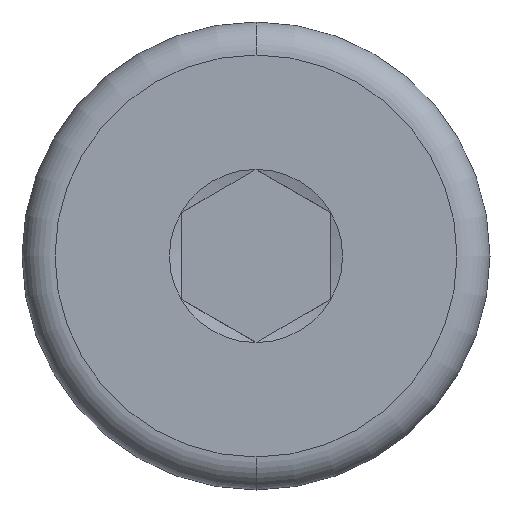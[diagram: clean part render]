
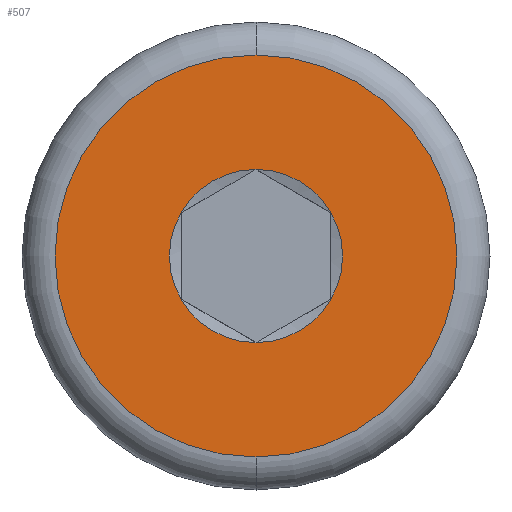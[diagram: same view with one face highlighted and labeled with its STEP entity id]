
A CAD part, left-side view. The second image highlights one B-rep face of the part: STEP entity #507.
In plain terms, the highlighted planar face has unit normal (-1, 0, 0).
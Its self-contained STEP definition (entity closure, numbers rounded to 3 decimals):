
#8 = ORIENTED_EDGE ( 'NONE', *, *, #416, .T. ) ;
#18 = CIRCLE ( 'NONE', #395, 2.887 ) ;
#26 = FACE_BOUND ( 'NONE', #629, .T. ) ;
#31 = FACE_OUTER_BOUND ( 'NONE', #222, .T. ) ;
#32 = CIRCLE ( 'NONE', #587, 2.887 ) ;
#51 = DIRECTION ( 'NONE',  ( 1., 0., 0. ) ) ;
#58 = CARTESIAN_POINT ( 'NONE',  ( 0., 0., -6.7 ) ) ;
#60 = DIRECTION ( 'NONE',  ( 0., 0., -1. ) ) ;
#67 = DIRECTION ( 'NONE',  ( 0., 0., -1. ) ) ;
#76 = ORIENTED_EDGE ( 'NONE', *, *, #161, .T. ) ;
#109 = CIRCLE ( 'NONE', #462, 2.887 ) ;
#119 = AXIS2_PLACEMENT_3D ( 'NONE', #339, #545, #167 ) ;
#132 = EDGE_CURVE ( 'NONE', #480, #158, #483, .T. ) ;
#154 = CARTESIAN_POINT ( 'NONE',  ( 0., 0., 0. ) ) ;
#158 = VERTEX_POINT ( 'NONE', #196 ) ;
#161 = EDGE_CURVE ( 'NONE', #170, #480, #18, .T. ) ;
#167 = DIRECTION ( 'NONE',  ( 0., 0., -1. ) ) ;
#170 = VERTEX_POINT ( 'NONE', #250 ) ;
#196 = CARTESIAN_POINT ( 'NONE',  ( 0., 0., -2.887 ) ) ;
#212 = DIRECTION ( 'NONE',  ( 0., 0., -1. ) ) ;
#216 = DIRECTION ( 'NONE',  ( 0., 0., -1. ) ) ;
#218 = AXIS2_PLACEMENT_3D ( 'NONE', #260, #588, #60 ) ;
#219 = VERTEX_POINT ( 'NONE', #523 ) ;
#221 = CARTESIAN_POINT ( 'NONE',  ( 0., 0., 0. ) ) ;
#222 = EDGE_LOOP ( 'NONE', ( #457, #477 ) ) ;
#234 = PLANE ( 'NONE',  #279 ) ;
#242 = CIRCLE ( 'NONE', #218, 2.887 ) ;
#250 = CARTESIAN_POINT ( 'NONE',  ( 0., -2.5, 1.443 ) ) ;
#260 = CARTESIAN_POINT ( 'NONE',  ( 0., 0., 0. ) ) ;
#262 = CARTESIAN_POINT ( 'NONE',  ( 0., 0., 0. ) ) ;
#263 = ORIENTED_EDGE ( 'NONE', *, *, #132, .T. ) ;
#273 = VERTEX_POINT ( 'NONE', #58 ) ;
#274 = EDGE_CURVE ( 'NONE', #321, #442, #242, .T. ) ;
#279 = AXIS2_PLACEMENT_3D ( 'NONE', #657, #445, #505 ) ;
#290 = DIRECTION ( 'NONE',  ( 1., 0., 0. ) ) ;
#293 = EDGE_CURVE ( 'NONE', #644, #321, #109, .T. ) ;
#301 = AXIS2_PLACEMENT_3D ( 'NONE', #645, #359, #576 ) ;
#310 = CIRCLE ( 'NONE', #119, 6.7 ) ;
#321 = VERTEX_POINT ( 'NONE', #371 ) ;
#327 = DIRECTION ( 'NONE',  ( 1., 0., 0. ) ) ;
#339 = CARTESIAN_POINT ( 'NONE',  ( 0., 0., 0. ) ) ;
#359 = DIRECTION ( 'NONE',  ( 1., 0., 0. ) ) ;
#369 = ORIENTED_EDGE ( 'NONE', *, *, #391, .T. ) ;
#371 = CARTESIAN_POINT ( 'NONE',  ( 0., 2.5, 1.443 ) ) ;
#377 = EDGE_CURVE ( 'NONE', #273, #219, #618, .T. ) ;
#391 = EDGE_CURVE ( 'NONE', #158, #644, #32, .T. ) ;
#394 = CARTESIAN_POINT ( 'NONE',  ( 0., -2.5, -1.443 ) ) ;
#395 = AXIS2_PLACEMENT_3D ( 'NONE', #468, #51, #673 ) ;
#416 = EDGE_CURVE ( 'NONE', #442, #170, #420, .T. ) ;
#420 = CIRCLE ( 'NONE', #301, 2.887 ) ;
#442 = VERTEX_POINT ( 'NONE', #490 ) ;
#445 = DIRECTION ( 'NONE',  ( -1., 0., 0. ) ) ;
#457 = ORIENTED_EDGE ( 'NONE', *, *, #377, .F. ) ;
#462 = AXIS2_PLACEMENT_3D ( 'NONE', #154, #327, #67 ) ;
#468 = CARTESIAN_POINT ( 'NONE',  ( 0., 0., 0. ) ) ;
#477 = ORIENTED_EDGE ( 'NONE', *, *, #478, .F. ) ;
#478 = EDGE_CURVE ( 'NONE', #219, #273, #310, .T. ) ;
#480 = VERTEX_POINT ( 'NONE', #394 ) ;
#482 = ORIENTED_EDGE ( 'NONE', *, *, #293, .T. ) ;
#483 = CIRCLE ( 'NONE', #639, 2.887 ) ;
#490 = CARTESIAN_POINT ( 'NONE',  ( 0., 0., 2.887 ) ) ;
#505 = DIRECTION ( 'NONE',  ( 0., 0., 1. ) ) ;
#507 = ADVANCED_FACE ( 'NONE', ( #26, #31 ), #234, .T. ) ;
#509 = CARTESIAN_POINT ( 'NONE',  ( 0., 0., 0. ) ) ;
#523 = CARTESIAN_POINT ( 'NONE',  ( 0., 0., 6.7 ) ) ;
#525 = AXIS2_PLACEMENT_3D ( 'NONE', #221, #581, #212 ) ;
#545 = DIRECTION ( 'NONE',  ( 1., 0., 0. ) ) ;
#547 = DIRECTION ( 'NONE',  ( 0., 0., -1. ) ) ;
#560 = CARTESIAN_POINT ( 'NONE',  ( 0., 2.5, -1.443 ) ) ;
#570 = ORIENTED_EDGE ( 'NONE', *, *, #274, .T. ) ;
#576 = DIRECTION ( 'NONE',  ( 0., 0., -1. ) ) ;
#581 = DIRECTION ( 'NONE',  ( 1., 0., 0. ) ) ;
#587 = AXIS2_PLACEMENT_3D ( 'NONE', #262, #638, #216 ) ;
#588 = DIRECTION ( 'NONE',  ( 1., 0., 0. ) ) ;
#618 = CIRCLE ( 'NONE', #525, 6.7 ) ;
#629 = EDGE_LOOP ( 'NONE', ( #570, #8, #76, #263, #369, #482 ) ) ;
#638 = DIRECTION ( 'NONE',  ( 1., 0., 0. ) ) ;
#639 = AXIS2_PLACEMENT_3D ( 'NONE', #509, #290, #547 ) ;
#644 = VERTEX_POINT ( 'NONE', #560 ) ;
#645 = CARTESIAN_POINT ( 'NONE',  ( 0., 0., 0. ) ) ;
#657 = CARTESIAN_POINT ( 'NONE',  ( 0., 0., 0. ) ) ;
#673 = DIRECTION ( 'NONE',  ( 0., 0., -1. ) ) ;
